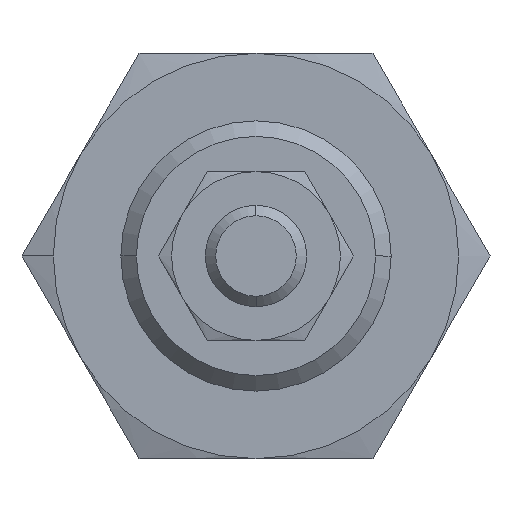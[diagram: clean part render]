
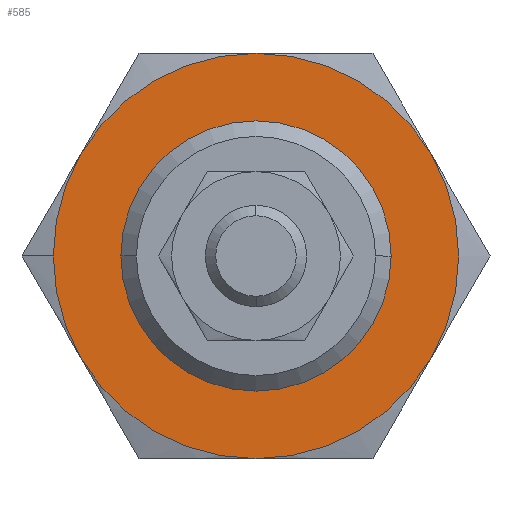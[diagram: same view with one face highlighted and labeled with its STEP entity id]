
A CAD part, left-side view. The second image highlights one B-rep face of the part: STEP entity #585.
In plain terms, the highlighted planar face has unit normal (-1, 0, 0).
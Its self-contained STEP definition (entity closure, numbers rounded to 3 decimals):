
#38 = DIRECTION ( 'NONE',  ( 1., 0., 0. ) ) ;
#110 = CARTESIAN_POINT ( 'NONE',  ( -13.5, 0., -12. ) ) ;
#137 = CARTESIAN_POINT ( 'NONE',  ( -13.5, 12., 0. ) ) ;
#153 = ORIENTED_EDGE ( 'NONE', *, *, #1559, .F. ) ;
#200 = ORIENTED_EDGE ( 'NONE', *, *, #722, .T. ) ;
#483 = FACE_BOUND ( 'NONE', #2762, .T. ) ;
#506 = ORIENTED_EDGE ( 'NONE', *, *, #1446, .T. ) ;
#529 = CARTESIAN_POINT ( 'NONE',  ( -13.5, 0., 0. ) ) ;
#573 = AXIS2_PLACEMENT_3D ( 'NONE', #529, #2912, #3868 ) ;
#585 = ADVANCED_FACE ( 'NONE', ( #3118, #483 ), #1168, .T. ) ;
#608 = CIRCLE ( 'NONE', #3047, 12. ) ;
#609 = EDGE_CURVE ( 'NONE', #1447, #1371, #2153, .T. ) ;
#718 = DIRECTION ( 'NONE',  ( 0., 1., 0. ) ) ;
#722 = EDGE_CURVE ( 'NONE', #1421, #2810, #2350, .T. ) ;
#759 = ORIENTED_EDGE ( 'NONE', *, *, #609, .F. ) ;
#813 = DIRECTION ( 'NONE',  ( -1., 0., 0. ) ) ;
#822 = CARTESIAN_POINT ( 'NONE',  ( -13.5, 8., 0. ) ) ;
#919 = CARTESIAN_POINT ( 'NONE',  ( -13.5, 12., 0. ) ) ;
#1122 = AXIS2_PLACEMENT_3D ( 'NONE', #1569, #2886, #3841 ) ;
#1168 = PLANE ( 'NONE',  #2216 ) ;
#1210 = EDGE_CURVE ( 'NONE', #4073, #3503, #1243, .T. ) ;
#1215 = EDGE_CURVE ( 'NONE', #1893, #3782, #608, .T. ) ;
#1243 = CIRCLE ( 'NONE', #2843, 12. ) ;
#1251 = AXIS2_PLACEMENT_3D ( 'NONE', #3805, #2508, #3822 ) ;
#1258 = DIRECTION ( 'NONE',  ( 1., 0., 0. ) ) ;
#1371 = VERTEX_POINT ( 'NONE', #4046 ) ;
#1421 = VERTEX_POINT ( 'NONE', #822 ) ;
#1446 = EDGE_CURVE ( 'NONE', #2810, #1421, #3709, .T. ) ;
#1447 = VERTEX_POINT ( 'NONE', #4130 ) ;
#1531 = CARTESIAN_POINT ( 'NONE',  ( -13.5, 0., 0. ) ) ;
#1559 = EDGE_CURVE ( 'NONE', #2889, #4073, #3439, .T. ) ;
#1569 = CARTESIAN_POINT ( 'NONE',  ( -13.5, 0., 0. ) ) ;
#1576 = AXIS2_PLACEMENT_3D ( 'NONE', #1760, #2824, #4134 ) ;
#1617 = ORIENTED_EDGE ( 'NONE', *, *, #1215, .F. ) ;
#1747 = EDGE_LOOP ( 'NONE', ( #2956, #153, #2808, #1617, #4032, #759, #3773 ) ) ;
#1760 = CARTESIAN_POINT ( 'NONE',  ( -13.5, 0., 0. ) ) ;
#1783 = AXIS2_PLACEMENT_3D ( 'NONE', #3632, #1998, #3317 ) ;
#1849 = AXIS2_PLACEMENT_3D ( 'NONE', #2146, #3464, #4065 ) ;
#1893 = VERTEX_POINT ( 'NONE', #3667 ) ;
#1921 = CIRCLE ( 'NONE', #2492, 12. ) ;
#1998 = DIRECTION ( 'NONE',  ( 1., 0., 0. ) ) ;
#2086 = EDGE_CURVE ( 'NONE', #3782, #2889, #2845, .T. ) ;
#2138 = DIRECTION ( 'NONE',  ( 0., 1., 0. ) ) ;
#2146 = CARTESIAN_POINT ( 'NONE',  ( -13.5, 0., 0. ) ) ;
#2153 = CIRCLE ( 'NONE', #1122, 12. ) ;
#2216 = AXIS2_PLACEMENT_3D ( 'NONE', #137, #813, #2138 ) ;
#2305 = DIRECTION ( 'NONE',  ( 0., 1., 0. ) ) ;
#2350 = CIRCLE ( 'NONE', #1251, 8. ) ;
#2492 = AXIS2_PLACEMENT_3D ( 'NONE', #3018, #38, #718 ) ;
#2508 = DIRECTION ( 'NONE',  ( 1., 0., 0. ) ) ;
#2536 = CARTESIAN_POINT ( 'NONE',  ( -13.5, 0., 0. ) ) ;
#2762 = EDGE_LOOP ( 'NONE', ( #506, #200 ) ) ;
#2800 = EDGE_CURVE ( 'NONE', #1371, #1893, #3630, .T. ) ;
#2808 = ORIENTED_EDGE ( 'NONE', *, *, #2086, .F. ) ;
#2810 = VERTEX_POINT ( 'NONE', #3115 ) ;
#2824 = DIRECTION ( 'NONE',  ( 1., 0., 0. ) ) ;
#2843 = AXIS2_PLACEMENT_3D ( 'NONE', #1531, #2864, #4175 ) ;
#2845 = CIRCLE ( 'NONE', #573, 12. ) ;
#2864 = DIRECTION ( 'NONE',  ( 1., 0., 0. ) ) ;
#2886 = DIRECTION ( 'NONE',  ( 1., 0., 0. ) ) ;
#2889 = VERTEX_POINT ( 'NONE', #110 ) ;
#2896 = CARTESIAN_POINT ( 'NONE',  ( -13.5, -10.392, -6. ) ) ;
#2912 = DIRECTION ( 'NONE',  ( 1., 0., 0. ) ) ;
#2956 = ORIENTED_EDGE ( 'NONE', *, *, #1210, .F. ) ;
#3018 = CARTESIAN_POINT ( 'NONE',  ( -13.5, 0., 0. ) ) ;
#3047 = AXIS2_PLACEMENT_3D ( 'NONE', #2536, #1258, #2305 ) ;
#3115 = CARTESIAN_POINT ( 'NONE',  ( -13.5, -8., 0. ) ) ;
#3118 = FACE_OUTER_BOUND ( 'NONE', #1747, .T. ) ;
#3317 = DIRECTION ( 'NONE',  ( 0., 1., 0. ) ) ;
#3410 = CARTESIAN_POINT ( 'NONE',  ( -13.5, 10.392, -6. ) ) ;
#3439 = CIRCLE ( 'NONE', #1576, 12. ) ;
#3464 = DIRECTION ( 'NONE',  ( 1., 0., 0. ) ) ;
#3503 = VERTEX_POINT ( 'NONE', #919 ) ;
#3630 = CIRCLE ( 'NONE', #1783, 12. ) ;
#3632 = CARTESIAN_POINT ( 'NONE',  ( -13.5, 0., 0. ) ) ;
#3667 = CARTESIAN_POINT ( 'NONE',  ( -13.5, -10.392, 6. ) ) ;
#3709 = CIRCLE ( 'NONE', #1849, 8. ) ;
#3773 = ORIENTED_EDGE ( 'NONE', *, *, #4153, .F. ) ;
#3782 = VERTEX_POINT ( 'NONE', #2896 ) ;
#3805 = CARTESIAN_POINT ( 'NONE',  ( -13.5, 0., 0. ) ) ;
#3822 = DIRECTION ( 'NONE',  ( 0., 1., 0. ) ) ;
#3841 = DIRECTION ( 'NONE',  ( 0., 1., 0. ) ) ;
#3868 = DIRECTION ( 'NONE',  ( 0., 1., 0. ) ) ;
#4032 = ORIENTED_EDGE ( 'NONE', *, *, #2800, .F. ) ;
#4046 = CARTESIAN_POINT ( 'NONE',  ( -13.5, 0., 12. ) ) ;
#4065 = DIRECTION ( 'NONE',  ( 0., 1., 0. ) ) ;
#4073 = VERTEX_POINT ( 'NONE', #3410 ) ;
#4130 = CARTESIAN_POINT ( 'NONE',  ( -13.5, 10.392, 6. ) ) ;
#4134 = DIRECTION ( 'NONE',  ( 0., 1., 0. ) ) ;
#4153 = EDGE_CURVE ( 'NONE', #3503, #1447, #1921, .T. ) ;
#4175 = DIRECTION ( 'NONE',  ( 0., 1., 0. ) ) ;
